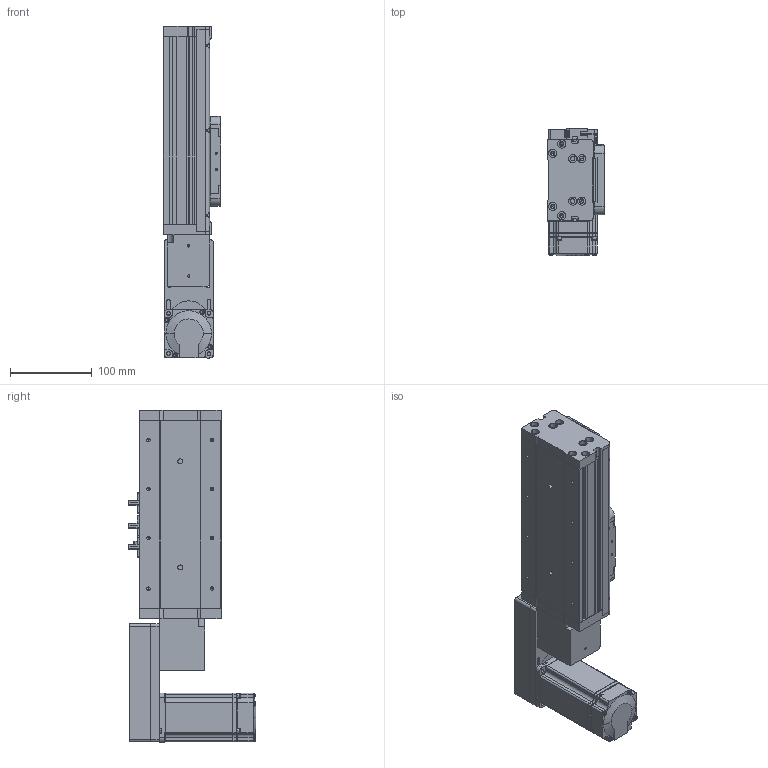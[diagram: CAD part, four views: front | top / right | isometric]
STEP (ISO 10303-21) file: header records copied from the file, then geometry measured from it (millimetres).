
FILE_DESCRIPTION (( 'STEP AP214' ), '1' );
FILE_NAME ('KSD100B-S50-MLB-CR.STEP', '2019-09-06T07:20:45', ( '微软用户' ), ( '微软中国' ), 'SwSTEP 2.0', 'SolidWorks 2014', '' );
FILE_SCHEMA (( 'AUTOMOTIVE_DESIGN' ));
Length unit declared in the file: millimetre
Products named in the file (15): 100宽马达安装板连板上下折丝杆同步带; 感应片100宽全封闭; U倰嫖萇EEㄜSX672; 100宽马达安装板同步带左; 100遵鎮湛假蚾啣蜊; 100宽端板同步带全封闭; 100宽滚珠螺姆安装板1防护罩; 100宽滚珠螺姆安装板1; 100遵裔啣揤啣; 100遵裔啣50俴最; 100宽侧板50行程同步带; 100宽底板全封闭50行程同步带; MHMD042G1CA_2_03; KSD100B-S50-MLB-CR; 悵誘欶奻狟殏
Assembly tree (18 placements, depth 2):
  KSD100B-S50-MLB-CR
    100宽底板全封闭50行程同步带
    100宽侧板50行程同步带  x2
    100遵裔啣50俴最
    100遵裔啣揤啣  x2
    100宽滚珠螺姆安装板1
    100宽滚珠螺姆安装板1防护罩
    100宽端板同步带全封闭
    100遵鎮湛假蚾啣蜊
    100宽马达安装板同步带左
    U倰嫖萇EEㄜSX672  x3
    感应片100宽全封闭
    100宽马达安装板连板上下折丝杆同步带
    悵誘欶奻狟殏
    MHMD042G1CA_2_03
Bounding box: 70 x 156.2 x 407 mm (x, y, z)
Volume: 810741.5 mm3; surface area: 397980.7 mm2
Topology: 17 solids, 18 shells, 1581 faces, 4404 edges, 2869 vertices
Faces by surface type: plane 729, cylinder 689, cone 143, bspline 20
Entity records: 55908 total; most frequent: CARTESIAN_POINT 8392, DIRECTION 7624, ORIENTED_EDGE 7096, EDGE_CURVE 3620, AXIS2_PLACEMENT_3D 2715, VERTEX_POINT 2407, LINE 2194, VECTOR 2194
